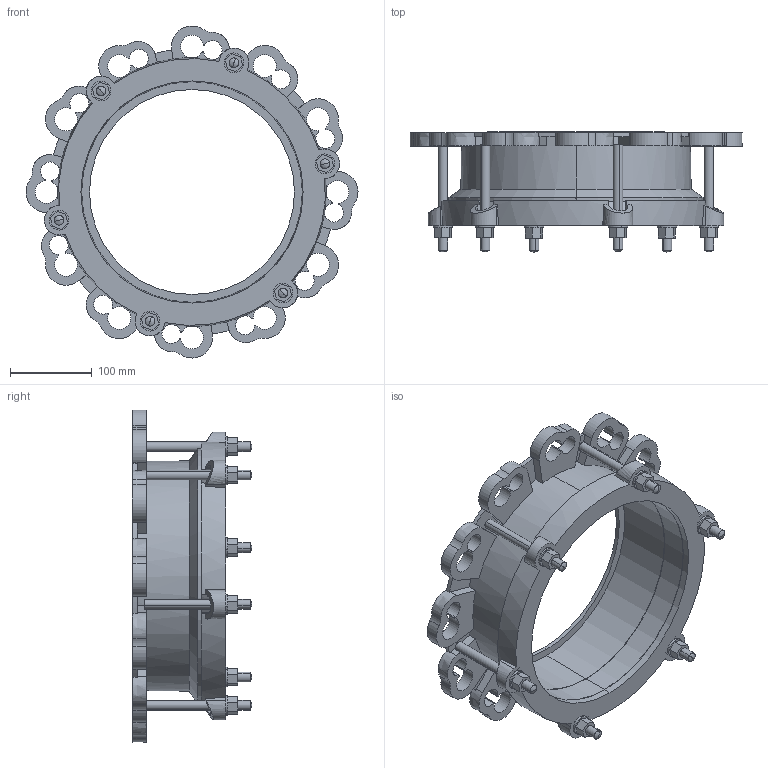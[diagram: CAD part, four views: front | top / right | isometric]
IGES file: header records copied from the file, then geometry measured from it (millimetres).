
Start section:  PTC IGES file: maxidaptor_243-269.igs
Global section: file name: maxidaptor_243-269.igs; native system: Creo Parametric by PTC Inc.; preprocessor: 2016130; author: MReader; organization: Unknown; date: 20181009.111442; units: millimetre
Bounding box: 404.96 x 146 x 404.96 mm (x, y, z)
Surface area: 565168.8 mm2 (no closed solid volume)
Topology: 0 solids, 0 shells, 354 faces, 1884 edges, 1872 vertices
Faces by surface type: revolution 208, bspline 146
